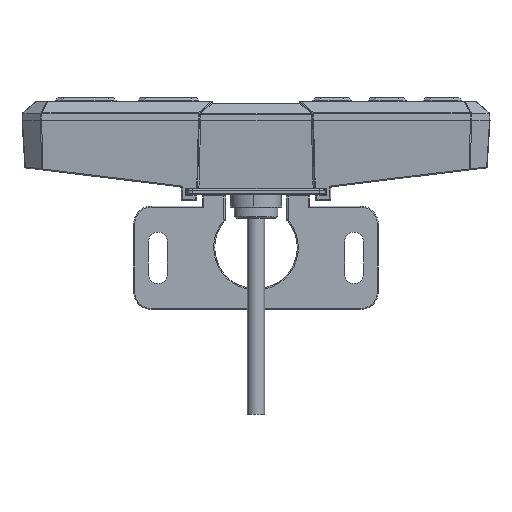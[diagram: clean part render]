
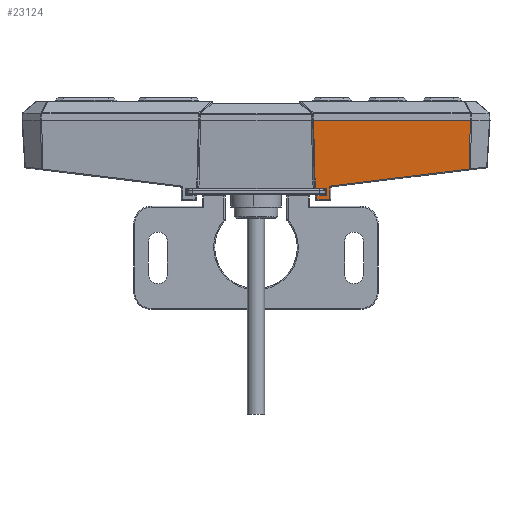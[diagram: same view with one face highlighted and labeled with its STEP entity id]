
A CAD part, front view. The second image highlights one B-rep face of the part: STEP entity #23124.
In plain terms, the highlighted planar face has unit normal (0, -0.998, -0.061).
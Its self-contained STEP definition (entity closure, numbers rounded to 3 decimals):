
#26 = CARTESIAN_POINT ( 'NONE',  ( 21.401, -16., 0. ) ) ;
#116 = VERTEX_POINT ( 'NONE', #6679 ) ;
#173 = ORIENTED_EDGE ( 'NONE', *, *, #9792, .T. ) ;
#199 = VERTEX_POINT ( 'NONE', #8767 ) ;
#370 = CARTESIAN_POINT ( 'NONE',  ( 17.701, -14.592, -23.018 ) ) ;
#412 = CARTESIAN_POINT ( 'NONE',  ( 0., -16., 0. ) ) ;
#500 = ORIENTED_EDGE ( 'NONE', *, *, #9436, .T. ) ;
#552 = DIRECTION ( 'NONE',  ( 0.025, -0.061, 0.998 ) ) ;
#573 = DIRECTION ( 'NONE',  ( -1., 0., 0. ) ) ;
#887 = CARTESIAN_POINT ( 'NONE',  ( 21.927, -14.833, -19.078 ) ) ;
#1223 = FACE_OUTER_BOUND ( 'NONE', #19792, .T. ) ;
#1399 = VERTEX_POINT ( 'NONE', #5769 ) ;
#1443 = CARTESIAN_POINT ( 'NONE',  ( 17.701, -14.655, -22. ) ) ;
#1571 = LINE ( 'NONE', #7690, #16702 ) ;
#1656 = DIRECTION ( 'NONE',  ( 0., -0.061, 0.998 ) ) ;
#2023 = LINE ( 'NONE', #16897, #16889 ) ;
#2231 = DIRECTION ( 'NONE',  ( 0., 0.061, -0.998 ) ) ;
#2322 = CARTESIAN_POINT ( 'NONE',  ( 62.292, -16., 0. ) ) ;
#2366 = ORIENTED_EDGE ( 'NONE', *, *, #13217, .F. ) ;
#2418 = VECTOR ( 'NONE', #2968, 1000. ) ;
#2677 = CARTESIAN_POINT ( 'NONE',  ( 21.449, -14.811, -19.433 ) ) ;
#2745 = VERTEX_POINT ( 'NONE', #8834 ) ;
#2968 = DIRECTION ( 'NONE',  ( 1., 0., 0. ) ) ;
#3604 = CARTESIAN_POINT ( 'NONE',  ( 17.701, -14.592, -23.013 ) ) ;
#3658 = CARTESIAN_POINT ( 'NONE',  ( 20.501, -16., 0. ) ) ;
#3748 = VECTOR ( 'NONE', #12423, 1000. ) ;
#3853 = VECTOR ( 'NONE', #9007, 1000. ) ;
#4079 = CARTESIAN_POINT ( 'NONE',  ( 61.933, -15.134, -14.166 ) ) ;
#4104 = VERTEX_POINT ( 'NONE', #18429 ) ;
#4191 = CARTESIAN_POINT ( 'NONE',  ( 21.927, -14.833, -19.078 ) ) ;
#4259 = ORIENTED_EDGE ( 'NONE', *, *, #9389, .T. ) ;
#4443 = LINE ( 'NONE', #4191, #22616 ) ;
#4454 = VERTEX_POINT ( 'NONE', #16692 ) ;
#4544 = CARTESIAN_POINT ( 'NONE',  ( 21.412, -14.805, -19.537 ) ) ;
#4604 = ORIENTED_EDGE ( 'NONE', *, *, #15930, .T. ) ;
#4626 = CARTESIAN_POINT ( 'NONE',  ( 21.401, -14.801, -19.604 ) ) ;
#4705 = ORIENTED_EDGE ( 'NONE', *, *, #4898, .T. ) ;
#4708 = CARTESIAN_POINT ( 'NONE',  ( 21.465, -14.813, -19.4 ) ) ;
#4898 = EDGE_CURVE ( 'NONE', #4454, #18771, #2023, .T. ) ;
#5098 = ORIENTED_EDGE ( 'NONE', *, *, #21340, .T. ) ;
#5678 = VERTEX_POINT ( 'NONE', #18634 ) ;
#5769 = CARTESIAN_POINT ( 'NONE',  ( 16.716, -16., 0. ) ) ;
#5945 = VERTEX_POINT ( 'NONE', #1443 ) ;
#5986 = PLANE ( 'NONE',  #13727 ) ;
#6070 = CARTESIAN_POINT ( 'NONE',  ( -68., -16., 0. ) ) ;
#6362 = CARTESIAN_POINT ( 'NONE',  ( 21.503, -14.817, -19.336 ) ) ;
#6679 = CARTESIAN_POINT ( 'NONE',  ( 21.401, -14.797, -19.673 ) ) ;
#6716 = ORIENTED_EDGE ( 'NONE', *, *, #7594, .T. ) ;
#6930 = LINE ( 'NONE', #21612, #3853 ) ;
#7594 = EDGE_CURVE ( 'NONE', #4104, #13180, #4443, .T. ) ;
#7690 = CARTESIAN_POINT ( 'NONE',  ( -68., -14.654, -21.999 ) ) ;
#8247 = LINE ( 'NONE', #3658, #3748 ) ;
#8294 = CARTESIAN_POINT ( 'NONE',  ( -68., -14.592, -23.018 ) ) ;
#8767 = CARTESIAN_POINT ( 'NONE',  ( 17.701, -14.592, -23.018 ) ) ;
#8834 = CARTESIAN_POINT ( 'NONE',  ( 17.701, -14.592, -23.013 ) ) ;
#9007 = DIRECTION ( 'NONE',  ( 0.025, 0.061, -0.998 ) ) ;
#9041 = B_SPLINE_CURVE_WITH_KNOTS ( 'NONE', 3,
 ( #15347, #4626, #4544, #2677, #4708, #6362, #17090, #9876, #18992, #11919, #17252, #15179, #18912, #13709, #887 ),
 .UNSPECIFIED., .F., .F.,
 ( 4, 2, 2, 2, 1, 2, 2, 4 ),
 ( 0., 0.25, 0.375, 0.5, 0.625, 0.688, 0.75, 1. ),
 .UNSPECIFIED. ) ;
#9389 = EDGE_CURVE ( 'NONE', #13601, #5945, #1571, .T. ) ;
#9428 = DIRECTION ( 'NONE',  ( 0., -0.998, -0.061 ) ) ;
#9436 = EDGE_CURVE ( 'NONE', #116, #4104, #9041, .T. ) ;
#9792 = EDGE_CURVE ( 'NONE', #13180, #16428, #15564, .T. ) ;
#9876 = CARTESIAN_POINT ( 'NONE',  ( 21.576, -14.823, -19.248 ) ) ;
#11028 = VECTOR ( 'NONE', #1656, 1000. ) ;
#11836 = LINE ( 'NONE', #412, #20793 ) ;
#11919 = CARTESIAN_POINT ( 'NONE',  ( 21.662, -14.827, -19.178 ) ) ;
#12423 = DIRECTION ( 'NONE',  ( 0., 0.061, -0.998 ) ) ;
#12645 = CARTESIAN_POINT ( 'NONE',  ( 20.501, -14.654, -21.999 ) ) ;
#12944 = DIRECTION ( 'NONE',  ( 0.993, -0.007, 0.122 ) ) ;
#13117 = EDGE_CURVE ( 'NONE', #5678, #116, #13234, .T. ) ;
#13180 = VERTEX_POINT ( 'NONE', #4079 ) ;
#13217 = EDGE_CURVE ( 'NONE', #1399, #16428, #11836, .T. ) ;
#13234 = LINE ( 'NONE', #26, #11028 ) ;
#13507 = DIRECTION ( 'NONE',  ( 1., 0., 0. ) ) ;
#13584 = VECTOR ( 'NONE', #552, 1000. ) ;
#13601 = VERTEX_POINT ( 'NONE', #12645 ) ;
#13709 = CARTESIAN_POINT ( 'NONE',  ( 21.856, -14.833, -19.087 ) ) ;
#13727 = AXIS2_PLACEMENT_3D ( 'NONE', #6070, #9428, #2231 ) ;
#14508 = LINE ( 'NONE', #18498, #16212 ) ;
#14799 = DIRECTION ( 'NONE',  ( 1., 0., 0. ) ) ;
#15000 = LINE ( 'NONE', #8294, #2418 ) ;
#15016 = DIRECTION ( 'NONE',  ( 0., 0.061, -0.998 ) ) ;
#15179 = CARTESIAN_POINT ( 'NONE',  ( 21.712, -14.829, -19.147 ) ) ;
#15347 = CARTESIAN_POINT ( 'NONE',  ( 21.401, -14.797, -19.673 ) ) ;
#15564 = LINE ( 'NONE', #18326, #13584 ) ;
#15930 = EDGE_CURVE ( 'NONE', #5945, #2745, #14508, .T. ) ;
#16212 = VECTOR ( 'NONE', #15016, 1000. ) ;
#16428 = VERTEX_POINT ( 'NONE', #2322 ) ;
#16692 = CARTESIAN_POINT ( 'NONE',  ( 17.216, -14.794, -19.718 ) ) ;
#16702 = VECTOR ( 'NONE', #573, 1000. ) ;
#16889 = VECTOR ( 'NONE', #13507, 1000. ) ;
#16897 = CARTESIAN_POINT ( 'NONE',  ( -68., -14.794, -19.718 ) ) ;
#17090 = CARTESIAN_POINT ( 'NONE',  ( 21.527, -14.819, -19.304 ) ) ;
#17147 =( BOUNDED_CURVE ( )  B_SPLINE_CURVE ( 3, ( #3604, #23148, #20669, #370 ),
 .UNSPECIFIED., .F., .F. ) 
 B_SPLINE_CURVE_WITH_KNOTS ( ( 4, 4 ),
 ( 6.24, 6.258 ),
 .UNSPECIFIED. ) 
 CURVE ( )  GEOMETRIC_REPRESENTATION_ITEM ( )  RATIONAL_B_SPLINE_CURVE ( ( 1., 1., 1., 1. ) ) 
 REPRESENTATION_ITEM ( '' )  );
#17252 = CARTESIAN_POINT ( 'NONE',  ( 21.694, -14.828, -19.158 ) ) ;
#18177 = ORIENTED_EDGE ( 'NONE', *, *, #18263, .T. ) ;
#18263 = EDGE_CURVE ( 'NONE', #2745, #199, #17147, .T. ) ;
#18326 = CARTESIAN_POINT ( 'NONE',  ( 61.933, -15.134, -14.166 ) ) ;
#18429 = CARTESIAN_POINT ( 'NONE',  ( 21.927, -14.833, -19.078 ) ) ;
#18498 = CARTESIAN_POINT ( 'NONE',  ( 17.701, -16., 0. ) ) ;
#18634 = CARTESIAN_POINT ( 'NONE',  ( 21.401, -14.592, -23.018 ) ) ;
#18771 = VERTEX_POINT ( 'NONE', #22678 ) ;
#18912 = CARTESIAN_POINT ( 'NONE',  ( 21.79, -14.831, -19.107 ) ) ;
#18992 = CARTESIAN_POINT ( 'NONE',  ( 21.616, -14.825, -19.21 ) ) ;
#19792 = EDGE_LOOP ( 'NONE', ( #500, #6716, #173, #2366, #21435, #4705, #21720, #4259, #4604, #18177, #5098, #20027 ) ) ;
#20027 = ORIENTED_EDGE ( 'NONE', *, *, #13117, .T. ) ;
#20618 = EDGE_CURVE ( 'NONE', #1399, #4454, #6930, .T. ) ;
#20669 = CARTESIAN_POINT ( 'NONE',  ( 17.701, -14.592, -23.017 ) ) ;
#20793 = VECTOR ( 'NONE', #14799, 1000. ) ;
#21340 = EDGE_CURVE ( 'NONE', #199, #5678, #15000, .T. ) ;
#21435 = ORIENTED_EDGE ( 'NONE', *, *, #20618, .T. ) ;
#21612 = CARTESIAN_POINT ( 'NONE',  ( 16.716, -16., 0. ) ) ;
#21720 = ORIENTED_EDGE ( 'NONE', *, *, #22555, .T. ) ;
#22555 = EDGE_CURVE ( 'NONE', #18771, #13601, #8247, .T. ) ;
#22616 = VECTOR ( 'NONE', #12944, 1000. ) ;
#22678 = CARTESIAN_POINT ( 'NONE',  ( 20.501, -14.794, -19.718 ) ) ;
#23124 = ADVANCED_FACE ( 'NONE', ( #1223 ), #5986, .T. ) ;
#23148 = CARTESIAN_POINT ( 'NONE',  ( 17.701, -14.592, -23.015 ) ) ;
